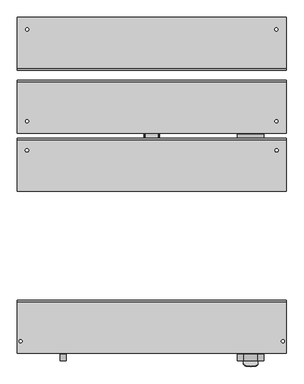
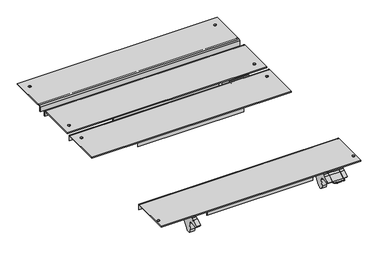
"""IFC4 building model written with IfcOpenShell, lengths in millimetres: proxy geometry, 12290890_D_APDR024 : 59520024_D_12290890_APDR024."""

from ifc_helpers import new_model, si_unit, point, frame, frame_2d, origin, place, context, project, spatial, polyline, circle_curve, trimmed, segment, composite_curve, outline, extrude, source, transform, mapped, element, save
from ifc_brep_helpers import plane_surface, cylinder_surface, revolved_surface, advanced_brep


def specialty_equipment_084e41a8(model_context):
    return source(origin(), model_context, "Body", "SolidModel", [
        advanced_brep(
        [(-425.0, 0.0, 125.7198946), (-425.0, 0.0, 121.7198946), (-425.0, -147.5857849, 121.7198946), (-425.0, -149.6888984, 122.5910314), (-425.0, -151.2426453, 123.7198946), (-425.0, -162.5, 123.7198946), (-425.0, -165.0, 121.2198946), (-425.0, -165.0, 100.7198946), (-425.0, -167.0, 100.7198946), (-425.0, -167.0, 121.2198946), (-425.0, -162.5, 125.7198946), (425.0, 0.0, 125.7198946), (425.0, -162.5, 125.7198946), (425.0, -167.0, 121.2198946), (425.0, -167.0, 100.7198946), (425.0, -165.0, 100.7198946), (425.0, -165.0, 121.2198946), (425.0, -162.5, 123.7198946), (425.0, -151.2426453, 123.7198946), (425.0, -149.6888984, 122.5910314), (425.0, -147.5857849, 121.7198946), (425.0, 0.0, 121.7198946), (389.5, -38.0, 121.7198946), (399.5, -38.0, 121.7198946), (-399.5, -38.0, 121.7198946), (-389.5, -38.0, 121.7198946), (399.5, -38.0, 125.7198946), (389.5, -38.0, 125.7198946), (-389.5, -38.0, 125.7198946), (-399.5, -38.0, 125.7198946)],
        [
            (0, 1),
            (1, 2),
            (2, 3, circle_curve(frame((-425.0, -147.5857849, 124.6941493), z_axis=(-1.0, 0.0, 0.0), x_axis=(0.0, -1.0, 0.0)), 2.9742547)),
            (3, 4, circle_curve(frame((-425.0, -151.2426453, 122.0861884), z_axis=(1.0, 0.0, 0.0), x_axis=(0.0, -1.0, 0.0)), 1.6337062)),
            (4, 5),
            (5, 6, circle_curve(frame((-425.0, -162.5, 121.2198946), z_axis=(1.0, 0.0, 0.0), x_axis=(0.0, -1.0, 0.0)), 2.5)),
            (6, 7),
            (7, 8),
            (8, 9),
            (9, 10, circle_curve(frame((-425.0, -162.5, 121.2198946), z_axis=(-1.0, 0.0, 0.0), x_axis=(0.0, -1.0, 0.0)), 4.5)),
            (10, 0),
            (11, 12),
            (12, 13, circle_curve(frame((425.0, -162.5, 121.2198946), z_axis=(1.0, 0.0, 0.0), x_axis=(0.0, -1.0, 0.0)), 4.5)),
            (13, 14),
            (14, 15),
            (15, 16),
            (16, 17, circle_curve(frame((425.0, -162.5, 121.2198946), z_axis=(-1.0, 0.0, 0.0), x_axis=(0.0, -1.0, 0.0)), 2.5)),
            (17, 18),
            (18, 19, circle_curve(frame((425.0, -151.2426453, 122.0861884), z_axis=(-1.0, 0.0, 0.0), x_axis=(0.0, -1.0, 0.0)), 1.6337062)),
            (19, 20, circle_curve(frame((425.0, -147.5857849, 124.6941493), z_axis=(1.0, 0.0, 0.0), x_axis=(0.0, -1.0, 0.0)), 2.9742547)),
            (20, 21),
            (21, 11),
            (0, 11),
            (21, 1),
            (20, 2),
            (22, 23, circle_curve(frame((394.5, -38.0, 121.7198946), z_axis=(0.0, 0.0, 1.0), x_axis=(1.0, 0.0, 0.0)), 5.0)),
            (23, 22, circle_curve(frame((394.5, -38.0, 121.7198946), z_axis=(0.0, 0.0, 1.0), x_axis=(1.0, 0.0, 0.0)), 5.0)),
            (24, 25, circle_curve(frame((-394.5, -38.0, 121.7198946), z_axis=(0.0, 0.0, 1.0), x_axis=(1.0, 0.0, 0.0)), 5.0)),
            (25, 24, circle_curve(frame((-394.5, -38.0, 121.7198946), z_axis=(0.0, 0.0, 1.0), x_axis=(1.0, 0.0, 0.0)), 5.0)),
            (19, 3),
            (18, 4),
            (17, 5),
            (16, 6),
            (15, 7),
            (14, 8),
            (13, 9),
            (12, 10),
            (26, 27, circle_curve(frame((394.5, -38.0, 125.7198946), z_axis=(0.0, 0.0, -1.0), x_axis=(1.0, 0.0, 0.0)), 5.0)),
            (27, 26, circle_curve(frame((394.5, -38.0, 125.7198946), z_axis=(0.0, 0.0, -1.0), x_axis=(1.0, 0.0, 0.0)), 5.0)),
            (28, 29, circle_curve(frame((-394.5, -38.0, 125.7198946), z_axis=(0.0, 0.0, -1.0), x_axis=(1.0, 0.0, 0.0)), 5.0)),
            (29, 28, circle_curve(frame((-394.5, -38.0, 125.7198946), z_axis=(0.0, 0.0, -1.0), x_axis=(1.0, 0.0, 0.0)), 5.0)),
            (22, 27),
            (26, 23),
            (24, 29),
            (28, 25),
        ],
        [
            plane_surface(frame((-425.0, 0.0, 121.7198946), z_axis=(-1.0, 0.0, 0.0), x_axis=(0.0, 0.0, -1.0))),
            plane_surface(frame((425.0, 0.0, 121.7198946), z_axis=(1.0, 0.0, 0.0), x_axis=(0.0, 0.0, 1.0))),
            plane_surface(frame((-425.0, 0.0, 125.7198946), z_axis=(0.0, 1.0, 0.0), x_axis=(1.0, 0.0, 0.0))),
            plane_surface(frame((-425.0, 0.0, 121.7198946), z_axis=(0.0, 0.0, -1.0), x_axis=(1.0, 0.0, 0.0))),
            cylinder_surface(frame((425.0, -147.5857849, 124.6941493), z_axis=(-1.0, 0.0, 0.0), x_axis=(0.0, -1.0, 0.0)), 2.9742547),
            revolved_surface(polyline([(425.0, -152.8763515, 122.0861884), (-425.0, -152.8763515, 122.0861884)]), (425.0, -151.2426453, 122.0861884), (1.0, 0.0, 0.0)),
            plane_surface(frame((-425.0, -151.2426453, 123.7198946), z_axis=(0.0, 0.0, -1.0), x_axis=(1.0, 0.0, 0.0))),
            revolved_surface(polyline([(425.0, -165.0, 121.2198946), (-425.0, -165.0, 121.2198946)]), (425.0, -162.5, 121.2198946), (1.0, 0.0, 0.0)),
            plane_surface(frame((-425.0, -165.0, 121.2198946), z_axis=(0.0, 1.0, 0.0), x_axis=(1.0, 0.0, 0.0))),
            plane_surface(frame((-425.0, -165.0, 100.7198946), z_axis=(0.0, 0.0, -1.0), x_axis=(1.0, 0.0, 0.0))),
            plane_surface(frame((-425.0, -167.0, 100.7198946), z_axis=(0.0, -1.0, 0.0), x_axis=(1.0, 0.0, 0.0))),
            cylinder_surface(frame((425.0, -162.5, 121.2198946), z_axis=(-1.0, 0.0, 0.0), x_axis=(0.0, -1.0, 0.0)), 4.5),
            plane_surface(frame((-425.0, -162.5, 125.7198946), z_axis=(0.0, 0.0, 1.0), x_axis=(1.0, 0.0, 0.0))),
            revolved_surface(polyline([(399.5, -38.0, 125.7198946), (399.5, -38.0, 121.7198946)]), (394.5, -38.0, 0.0), (0.0, 0.0, 1.0)),
            revolved_surface(polyline([(-389.5, -38.0, 125.7198946), (-389.5, -38.0, 121.7198946)]), (-394.5, -38.0, 0.0), (0.0, 0.0, 1.0)),
        ],
        [
            (0, [[1, 2, 3, 4, 5, 6, 7, 8, 9, 10, 11]]),
            (1, [[12, 13, 14, 15, 16, 17, 18, 19, 20, 21, 22]]),
            (2, [[-1, 23, -22, 24]]),
            (3, [[-2, -24, -21, 25], [26, 27], [28, 29]]),
            (4, [[-3, -25, -20, 30]]),
            (5, [[-4, -30, -19, 31]]),
            (6, [[-5, -31, -18, 32]]),
            (7, [[-6, -32, -17, 33]]),
            (8, [[-7, -33, -16, 34]]),
            (9, [[-8, -34, -15, 35]]),
            (10, [[-9, -35, -14, 36]]),
            (11, [[-10, -36, -13, 37]]),
            (12, [[-11, -37, -12, -23], [38, 39], [40, 41]]),
            (13, [[42, -38, 43, -26]]),
            (13, [[-42, -27, -43, -39]]),
            (14, [[44, -40, 45, -28]]),
            (14, [[-44, -29, -45, -41]]),
        ],
    ),
        extrude(outline(composite_curve([segment(polyline([(-1041.1809235, 51.6918031), (-1035.6630478, 77.0928632)]), True, "CONTINUOUS"), segment(trimmed(circle_curve(frame_2d((-1048.7630058, 77.0928632)), 13.099958), [point((-1035.6630478, 77.0928632))], [point((-1048.7630058, 90.1928212))], True, "CARTESIAN"), True, "CONTINUOUS"), segment(polyline([(-1048.7630058, 90.1928212), (-1080.2198384, 85.2105484), (-1084.1628271, 90.8417198), (-1061.7795681, 106.5146464), (-1051.4552155, 109.7698948), (-960.0, 109.7698948), (-960.0, 103.8698945)]), True, "CONTINUOUS"), segment(trimmed(circle_curve(frame_2d((-811.0639451, -81.8219916)), 238.0408054), [point((-960.0, 103.8698945))], [point((-1013.6273405, 43.2039892))], True, "CARTESIAN"), True, "CONTINUOUS"), segment(trimmed(circle_curve(frame_2d((-1026.816082, 49.3568547)), 14.5533726), [point((-1013.6273405, 43.2039892))], [point((-1041.1809235, 51.6918031))], False, "CARTESIAN"), True, "CONTINUOUS")], self_intersect=False)), frame((271.3709958, 0.0, 0.0), z_axis=(1.0, 0.0, 0.0), x_axis=(0.0, 1.0, 0.0)), (0.0, 0.0, 1.0), 18.5932971),
        extrude(outline(composite_curve([segment(polyline([(-1041.1809235, 51.6918031), (-1035.6630478, 77.0928632)]), True, "CONTINUOUS"), segment(trimmed(circle_curve(frame_2d((-1048.7630058, 77.0928632)), 13.099958), [point((-1035.6630478, 77.0928632))], [point((-1048.7630058, 90.1928212))], True, "CARTESIAN"), True, "CONTINUOUS"), segment(polyline([(-1048.7630058, 90.1928212), (-1080.2198384, 85.2105484), (-1084.1628271, 90.8417198), (-1061.7795681, 106.5146464), (-1051.4552155, 109.7698948), (-960.0, 109.7698948), (-960.0, 103.8698945)]), True, "CONTINUOUS"), segment(trimmed(circle_curve(frame_2d((-811.0639451, -81.8219916)), 238.0408054), [point((-960.0, 103.8698945))], [point((-1013.6273405, 43.2039892))], True, "CARTESIAN"), True, "CONTINUOUS"), segment(trimmed(circle_curve(frame_2d((-1026.816082, 49.3568547)), 14.5533726), [point((-1013.6273405, 43.2039892))], [point((-1041.1809235, 51.6918031))], False, "CARTESIAN"), True, "CONTINUOUS")], self_intersect=False)), frame((-289.9642929, 0.0, 0.0), z_axis=(1.0, 0.0, 0.0), x_axis=(0.0, 1.0, 0.0)), (0.0, 0.0, 1.0), 18.5932971),
        extrude(outline(composite_curve([segment(polyline([(-1041.0180964, 51.6918031), (-1035.5002207, 77.0928632)]), True, "CONTINUOUS"), segment(trimmed(circle_curve(frame_2d((-1048.6001787, 77.0928632)), 13.099958), [point((-1035.5002207, 77.0928632))], [point((-1048.6001787, 90.1928212))], True, "CARTESIAN"), True, "CONTINUOUS"), segment(polyline([(-1048.6001787, 90.1928212), (-1080.0570114, 85.2105484), (-1084.0, 90.8417198), (-1061.616741, 106.5146464), (-1051.2923884, 109.7698948), (-959.8371729, 109.7698948), (-959.8371729, 103.8698945)]), True, "CONTINUOUS"), segment(trimmed(circle_curve(frame_2d((-810.9011181, -81.8219916)), 238.0408054), [point((-959.8371729, 103.8698945))], [point((-1013.4645134, 43.2039892))], True, "CARTESIAN"), True, "CONTINUOUS"), segment(trimmed(circle_curve(frame_2d((-1026.6532549, 49.3568547)), 14.5533726), [point((-1013.4645134, 43.2039892))], [point((-1041.0180964, 51.6918031))], False, "CARTESIAN"), True, "CONTINUOUS")], self_intersect=False)), frame((336.0364395, 0.0, 0.0), z_axis=(1.0, 0.0, 0.0), x_axis=(0.0, 1.0, 0.0)), (0.0, 0.0, 1.0), 18.5932971),
        extrude(outline(composite_curve([segment(polyline([(4.0089052, 0.0), (4.0089052, -45.2500816), (-9.4794093, -45.2500816)]), True, "CONTINUOUS"), segment(trimmed(circle_curve(frame_2d((-9.4794093, -36.2704324)), 8.9796492), [point((-9.4794093, -45.2500816))], [point((-18.2479917, -38.2059068))], False, "CARTESIAN"), True, "CONTINUOUS"), segment(trimmed(circle_curve(frame_2d((73.1027151, -22.6250408)), 92.6699251), [point((-18.2479917, -38.2059068))], [point((-18.2479917, -7.0441748))], False, "CARTESIAN"), True, "CONTINUOUS"), segment(trimmed(circle_curve(frame_2d((-9.4794093, -8.9796492)), 8.9796492), [point((-18.2479917, -7.0441748))], [point((-9.4794093, 0.0))], False, "CARTESIAN"), True, "CONTINUOUS"), segment(polyline([(-9.4794093, 0.0), (4.0089052, 0.0)]), True, "CONTINUOUS")], self_intersect=False)), frame((290.3753254, -1084.1822522, 86.5337137), z_axis=(0.0, 0.32556815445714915, 0.9455185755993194), x_axis=(0.0, 0.9455185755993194, -0.32556815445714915)), (0.0, 0.0, 1.0), 2.9083805),
        extrude(outline(polyline([(-1051.2923884, 109.7698948), (-959.8371729, 109.7698948), (-959.8371729, 106.8022751), (-1051.2923884, 106.8022751), (-1060.0064384, 103.4461516), (-1082.0285057, 88.0261341), (-1084.0, 90.8417198), (-1061.616741, 106.5146464), (-1051.2923884, 109.7698948)])), frame((289.9642929, 0.0, 0.0), z_axis=(1.0, 0.0, 0.0), x_axis=(0.0, 1.0, 0.0)), (0.0, 0.0, 1.0), 46.0721465),
        extrude(outline(polyline([(225.1983078, -7.0), (225.1983078, -9.0), (-225.1983078, -9.0), (-225.1983078, -7.0), (225.1983078, -7.0)])), frame((0.0, 0.0, 100.7198946), z_axis=(0.0, 0.0, 1.0), x_axis=(1.0, 0.0, 0.0)), (0.0, 0.0, 1.0), 21.0),
        advanced_brep(
        [(425.0, -365.999939, 125.7198946), (425.0, -365.999939, 121.7198946), (425.0, -218.4141541, 121.7198946), (425.0, -216.3110406, 122.5910314), (425.0, -214.7572937, 123.7198946), (425.0, -203.499939, 123.7198946), (425.0, -200.999939, 121.2198946), (425.0, -200.999939, 100.7198946), (425.0, -198.999939, 100.7198946), (425.0, -198.999939, 121.2198946), (425.0, -203.499939, 125.7198946), (-425.0, -365.999939, 125.7198946), (-425.0, -203.499939, 125.7198946), (-425.0, -198.999939, 121.2198946), (-425.0, -198.999939, 100.7198946), (-425.0, -200.999939, 100.7198946), (-425.0, -200.999939, 121.2198946), (-425.0, -203.499939, 123.7198946), (-425.0, -214.7572937, 123.7198946), (-425.0, -216.3110406, 122.5910314), (-425.0, -218.4141541, 121.7198946), (-425.0, -365.999939, 121.7198946), (-29.7009872, -365.999939, 121.7198946), (27.7902836, -365.999939, 121.7198946), (389.5, -327.999939, 121.7198946), (399.5, -327.999939, 121.7198946), (-399.5, -327.999939, 121.7198946), (-389.5, -327.999939, 121.7198946), (399.5, -327.999939, 125.7198946), (389.5, -327.999939, 125.7198946), (-389.5, -327.999939, 125.7198946), (-399.5, -327.999939, 125.7198946)],
        [
            (0, 1),
            (1, 2),
            (2, 3, circle_curve(frame((425.0, -218.4141541, 124.6941493), z_axis=(1.0, 0.0, 0.0), x_axis=(0.0, 1.0, 0.0)), 2.9742547)),
            (3, 4, circle_curve(frame((425.0, -214.7572937, 122.0861884), z_axis=(-1.0, 0.0, 0.0), x_axis=(0.0, 1.0, 0.0)), 1.6337062)),
            (4, 5),
            (5, 6, circle_curve(frame((425.0, -203.499939, 121.2198946), z_axis=(-1.0, 0.0, 0.0), x_axis=(0.0, 1.0, 0.0)), 2.5)),
            (6, 7),
            (7, 8),
            (8, 9),
            (9, 10, circle_curve(frame((425.0, -203.499939, 121.2198946), z_axis=(1.0, 0.0, 0.0), x_axis=(0.0, 1.0, 0.0)), 4.5)),
            (10, 0),
            (11, 12),
            (12, 13, circle_curve(frame((-425.0, -203.499939, 121.2198946), z_axis=(-1.0, 0.0, 0.0), x_axis=(0.0, 1.0, 0.0)), 4.5)),
            (13, 14),
            (14, 15),
            (15, 16),
            (16, 17, circle_curve(frame((-425.0, -203.499939, 121.2198946), z_axis=(1.0, 0.0, 0.0), x_axis=(0.0, 1.0, 0.0)), 2.5)),
            (17, 18),
            (18, 19, circle_curve(frame((-425.0, -214.7572937, 122.0861884), z_axis=(1.0, 0.0, 0.0), x_axis=(0.0, 1.0, 0.0)), 1.6337062)),
            (19, 20, circle_curve(frame((-425.0, -218.4141541, 124.6941493), z_axis=(-1.0, 0.0, 0.0), x_axis=(0.0, 1.0, 0.0)), 2.9742547)),
            (20, 21),
            (21, 11),
            (0, 11),
            (21, 22),
            (22, 23),
            (23, 1),
            (20, 2),
            (24, 25, circle_curve(frame((394.5, -327.999939, 121.7198946), z_axis=(0.0, 0.0, 1.0), x_axis=(1.0, 0.0, 0.0)), 5.0)),
            (25, 24, circle_curve(frame((394.5, -327.999939, 121.7198946), z_axis=(0.0, 0.0, 1.0), x_axis=(1.0, 0.0, 0.0)), 5.0)),
            (26, 27, circle_curve(frame((-394.5, -327.999939, 121.7198946), z_axis=(0.0, 0.0, 1.0), x_axis=(1.0, 0.0, 0.0)), 5.0)),
            (27, 26, circle_curve(frame((-394.5, -327.999939, 121.7198946), z_axis=(0.0, 0.0, 1.0), x_axis=(1.0, 0.0, 0.0)), 5.0)),
            (19, 3),
            (18, 4),
            (17, 5),
            (16, 6),
            (15, 7),
            (14, 8),
            (13, 9),
            (12, 10),
            (28, 29, circle_curve(frame((394.5, -327.999939, 125.7198946), z_axis=(0.0, 0.0, -1.0), x_axis=(1.0, 0.0, 0.0)), 5.0)),
            (29, 28, circle_curve(frame((394.5, -327.999939, 125.7198946), z_axis=(0.0, 0.0, -1.0), x_axis=(1.0, 0.0, 0.0)), 5.0)),
            (30, 31, circle_curve(frame((-394.5, -327.999939, 125.7198946), z_axis=(0.0, 0.0, -1.0), x_axis=(1.0, 0.0, 0.0)), 5.0)),
            (31, 30, circle_curve(frame((-394.5, -327.999939, 125.7198946), z_axis=(0.0, 0.0, -1.0), x_axis=(1.0, 0.0, 0.0)), 5.0)),
            (24, 29),
            (28, 25),
            (26, 31),
            (30, 27),
        ],
        [
            plane_surface(frame((425.0, -365.999939, 121.7198946), z_axis=(1.0, 0.0, 0.0), x_axis=(0.0, 0.0, -1.0))),
            plane_surface(frame((-425.0, -365.999939, 121.7198946), z_axis=(-1.0, 0.0, 0.0), x_axis=(0.0, 0.0, 1.0))),
            plane_surface(frame((425.0, -365.999939, 125.7198946), z_axis=(0.0, -1.0, 0.0), x_axis=(-1.0, 0.0, 0.0))),
            plane_surface(frame((425.0, -365.999939, 121.7198946), z_axis=(0.0, 0.0, -1.0), x_axis=(-1.0, 0.0, 0.0))),
            cylinder_surface(frame((-425.0, -218.4141541, 124.6941493), z_axis=(1.0, 0.0, 0.0), x_axis=(0.0, 1.0, 0.0)), 2.9742547),
            revolved_surface(polyline([(-425.0, -213.12358749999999, 122.0861884), (425.0, -213.12358749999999, 122.0861884)]), (-425.0, -214.7572937, 122.0861884), (-1.0, 0.0, 0.0)),
            plane_surface(frame((425.0, -214.7572937, 123.7198946), z_axis=(0.0, 0.0, -1.0), x_axis=(-1.0, 0.0, 0.0))),
            revolved_surface(polyline([(-425.0, -200.999939, 121.2198946), (425.0, -200.999939, 121.2198946)]), (-425.0, -203.499939, 121.2198946), (-1.0, 0.0, 0.0)),
            plane_surface(frame((425.0, -200.999939, 121.2198946), z_axis=(0.0, -1.0, 0.0), x_axis=(-1.0, 0.0, 0.0))),
            plane_surface(frame((425.0, -200.999939, 100.7198946), z_axis=(0.0, 0.0, -1.0), x_axis=(-1.0, 0.0, 0.0))),
            plane_surface(frame((425.0, -198.999939, 100.7198946), z_axis=(0.0, 1.0, 0.0), x_axis=(-1.0, 0.0, 0.0))),
            cylinder_surface(frame((-425.0, -203.499939, 121.2198946), z_axis=(1.0, 0.0, 0.0), x_axis=(0.0, 1.0, 0.0)), 4.5),
            plane_surface(frame((425.0, -203.499939, 125.7198946), z_axis=(0.0, 0.0, 1.0), x_axis=(-1.0, 0.0, 0.0))),
            revolved_surface(polyline([(399.5, -327.999939, 125.7198946), (399.5, -327.999939, 121.7198946)]), (394.5, -327.999939, 0.0), (0.0, 0.0, 1.0)),
            revolved_surface(polyline([(-389.5, -327.999939, 125.7198946), (-389.5, -327.999939, 121.7198946)]), (-394.5, -327.999939, 0.0), (0.0, 0.0, 1.0)),
        ],
        [
            (0, [[1, 2, 3, 4, 5, 6, 7, 8, 9, 10, 11]]),
            (1, [[12, 13, 14, 15, 16, 17, 18, 19, 20, 21, 22]]),
            (2, [[-1, 23, -22, 24, 25, 26]]),
            (3, [[-2, -26, -25, -24, -21, 27], [28, 29], [30, 31]]),
            (4, [[-3, -27, -20, 32]]),
            (5, [[-4, -32, -19, 33]]),
            (6, [[-5, -33, -18, 34]]),
            (7, [[-6, -34, -17, 35]]),
            (8, [[-7, -35, -16, 36]]),
            (9, [[-8, -36, -15, 37]]),
            (10, [[-9, -37, -14, 38]]),
            (11, [[-10, -38, -13, 39]]),
            (12, [[-11, -39, -12, -23], [40, 41], [42, 43]]),
            (13, [[44, -40, 45, -28]]),
            (13, [[-44, -29, -45, -41]]),
            (14, [[46, -42, 47, -30]]),
            (14, [[-46, -31, -47, -43]]),
        ],
    ),
        advanced_brep(
        [(425.0, -1060.7120361, 125.7198946), (425.0, -1060.7120361, 121.7198946), (425.0, -913.1262512, 121.7198946), (425.0, -911.0231378, 122.5910314), (425.0, -909.4693909, 123.7198946), (425.0, -898.2120361, 123.7198946), (425.0, -895.7120361, 121.2198946), (425.0, -895.7120361, 100.7198946), (425.0, -893.7120361, 100.7198946), (425.0, -893.7120361, 121.2198946), (425.0, -898.2120361, 125.7198946), (-425.0, -1060.7120361, 125.7198946), (-425.0, -898.2120361, 125.7198946), (-425.0, -893.7120361, 121.2198946), (-425.0, -893.7120361, 100.7198946), (-425.0, -895.7120361, 100.7198946), (-425.0, -895.7120361, 121.2198946), (-425.0, -898.2120361, 123.7198946), (-425.0, -909.4693909, 123.7198946), (-425.0, -911.0231378, 122.5910314), (-425.0, -913.1262512, 121.7198946), (-425.0, -1060.7120361, 121.7198946), (225.1983078, -1053.7120361, 121.7198946), (225.1983078, -1051.7120361, 121.7198946), (-225.1983078, -1051.7120361, 121.7198946), (-225.1983078, -1053.7120361, 121.7198946), (-420.0226615, -1022.7120361, 121.7198946), (-410.006072, -1022.7120361, 121.7198946), (410.006072, -1022.7120361, 121.7198946), (420.0226615, -1022.7120361, 121.7198946), (-410.006072, -1022.7120361, 125.7198946), (-420.0226615, -1022.7120361, 125.7198946), (420.0226615, -1022.7120361, 125.7198946), (410.006072, -1022.7120361, 125.7198946), (225.1983078, -1053.7120361, 100.7198946), (225.1983078, -1051.7120361, 100.7198946), (-225.1983078, -1051.7120361, 100.7198946), (-225.1983078, -1053.7120361, 100.7198946)],
        [
            (0, 1),
            (1, 2),
            (2, 3, circle_curve(frame((425.0, -913.1262512, 124.6941493), z_axis=(1.0, 0.0, 0.0), x_axis=(0.0, 1.0, 0.0)), 2.9742547)),
            (3, 4, circle_curve(frame((425.0, -909.4693909, 122.0861884), z_axis=(-1.0, 0.0, 0.0), x_axis=(0.0, 1.0, 0.0)), 1.6337062)),
            (4, 5),
            (5, 6, circle_curve(frame((425.0, -898.2120361, 121.2198946), z_axis=(-1.0, 0.0, 0.0), x_axis=(0.0, 1.0, 0.0)), 2.5)),
            (6, 7),
            (7, 8),
            (8, 9),
            (9, 10, circle_curve(frame((425.0, -898.2120361, 121.2198946), z_axis=(1.0, 0.0, 0.0), x_axis=(0.0, 1.0, 0.0)), 4.5)),
            (10, 0),
            (11, 12),
            (12, 13, circle_curve(frame((-425.0, -898.2120361, 121.2198946), z_axis=(-1.0, 0.0, 0.0), x_axis=(0.0, 1.0, 0.0)), 4.5)),
            (13, 14),
            (14, 15),
            (15, 16),
            (16, 17, circle_curve(frame((-425.0, -898.2120361, 121.2198946), z_axis=(1.0, 0.0, 0.0), x_axis=(0.0, 1.0, 0.0)), 2.5)),
            (17, 18),
            (18, 19, circle_curve(frame((-425.0, -909.4693909, 122.0861884), z_axis=(1.0, 0.0, 0.0), x_axis=(0.0, 1.0, 0.0)), 1.6337062)),
            (19, 20, circle_curve(frame((-425.0, -913.1262512, 124.6941493), z_axis=(-1.0, 0.0, 0.0), x_axis=(0.0, 1.0, 0.0)), 2.9742547)),
            (20, 21),
            (21, 11),
            (0, 11),
            (21, 1),
            (20, 2),
            (22, 23),
            (23, 24),
            (24, 25),
            (25, 22),
            (26, 27, circle_curve(frame((-415.0143668, -1022.7120361, 121.7198946), z_axis=(0.0, 0.0, 1.0), x_axis=(1.0, 0.0, 0.0)), 5.0082948)),
            (27, 26, circle_curve(frame((-415.0143668, -1022.7120361, 121.7198946), z_axis=(0.0, 0.0, 1.0), x_axis=(1.0, 0.0, 0.0)), 5.0082948)),
            (28, 29, circle_curve(frame((415.0143668, -1022.7120361, 121.7198946), z_axis=(0.0, 0.0, 1.0), x_axis=(1.0, 0.0, 0.0)), 5.0082948)),
            (29, 28, circle_curve(frame((415.0143668, -1022.7120361, 121.7198946), z_axis=(0.0, 0.0, 1.0), x_axis=(1.0, 0.0, 0.0)), 5.0082948)),
            (19, 3),
            (18, 4),
            (17, 5),
            (16, 6),
            (15, 7),
            (14, 8),
            (13, 9),
            (12, 10),
            (30, 31, circle_curve(frame((-415.0143668, -1022.7120361, 125.7198946), z_axis=(0.0, 0.0, -1.0), x_axis=(1.0, 0.0, 0.0)), 5.0082948)),
            (31, 30, circle_curve(frame((-415.0143668, -1022.7120361, 125.7198946), z_axis=(0.0, 0.0, -1.0), x_axis=(1.0, 0.0, 0.0)), 5.0082948)),
            (32, 33, circle_curve(frame((415.0143668, -1022.7120361, 125.7198946), z_axis=(0.0, 0.0, -1.0), x_axis=(1.0, 0.0, 0.0)), 5.0082948)),
            (33, 32, circle_curve(frame((415.0143668, -1022.7120361, 125.7198946), z_axis=(0.0, 0.0, -1.0), x_axis=(1.0, 0.0, 0.0)), 5.0082948)),
            (22, 34),
            (34, 35),
            (35, 23),
            (24, 36),
            (36, 37),
            (37, 25),
            (37, 34),
            (36, 35),
            (26, 31),
            (30, 27),
            (28, 33),
            (32, 29),
        ],
        [
            plane_surface(frame((425.0, -1060.7120361, 121.7198946), z_axis=(1.0, 0.0, 0.0), x_axis=(0.0, 0.0, -1.0))),
            plane_surface(frame((-425.0, -1060.7120361, 121.7198946), z_axis=(-1.0, 0.0, 0.0), x_axis=(0.0, 0.0, 1.0))),
            plane_surface(frame((425.0, -1060.7120361, 125.7198946), z_axis=(0.0, -1.0, 0.0), x_axis=(-1.0, 0.0, 0.0))),
            plane_surface(frame((425.0, -1060.7120361, 121.7198946), z_axis=(0.0, 0.0, -1.0), x_axis=(-1.0, 0.0, 0.0))),
            cylinder_surface(frame((-425.0, -913.1262512, 124.6941493), z_axis=(1.0, 0.0, 0.0), x_axis=(0.0, 1.0, 0.0)), 2.9742547),
            revolved_surface(polyline([(-425.0, -907.8356847, 122.0861884), (425.0, -907.8356847, 122.0861884)]), (-425.0, -909.4693909, 122.0861884), (-1.0, 0.0, 0.0)),
            plane_surface(frame((425.0, -909.4693909, 123.7198946), z_axis=(0.0, 0.0, -1.0), x_axis=(-1.0, 0.0, 0.0))),
            revolved_surface(polyline([(-425.0, -895.7120361, 121.2198946), (425.0, -895.7120361, 121.2198946)]), (-425.0, -898.2120361, 121.2198946), (-1.0, 0.0, 0.0)),
            plane_surface(frame((425.0, -895.7120361, 121.2198946), z_axis=(0.0, -1.0, 0.0), x_axis=(-1.0, 0.0, 0.0))),
            plane_surface(frame((425.0, -895.7120361, 100.7198946), z_axis=(0.0, 0.0, -1.0), x_axis=(-1.0, 0.0, 0.0))),
            plane_surface(frame((425.0, -893.7120361, 100.7198946), z_axis=(0.0, 1.0, 0.0), x_axis=(-1.0, 0.0, 0.0))),
            cylinder_surface(frame((-425.0, -898.2120361, 121.2198946), z_axis=(1.0, 0.0, 0.0), x_axis=(0.0, 1.0, 0.0)), 4.5),
            plane_surface(frame((425.0, -898.2120361, 125.7198946), z_axis=(0.0, 0.0, 1.0), x_axis=(-1.0, 0.0, 0.0))),
            plane_surface(frame((225.1983078, -1053.7120361, 121.7198946), z_axis=(1.0, 0.0, 0.0), x_axis=(0.0, -1.0, 0.0))),
            plane_surface(frame((-225.1983078, -1053.7120361, 121.7198946), z_axis=(-1.0, 0.0, 0.0), x_axis=(0.0, 1.0, 0.0))),
            plane_surface(frame((225.1983078, -1053.7120361, 121.7198946), z_axis=(0.0, -1.0, 0.0), x_axis=(-1.0, 0.0, 0.0))),
            plane_surface(frame((225.1983078, -1053.7120361, 100.7198946), z_axis=(0.0, 0.0, -1.0), x_axis=(-1.0, 0.0, 0.0))),
            plane_surface(frame((225.1983078, -1051.7120361, 100.7198946), z_axis=(0.0, 1.0, 0.0), x_axis=(-1.0, 0.0, 0.0))),
            revolved_surface(polyline([(-410.006072, -1022.7120361, 125.7198946), (-410.006072, -1022.7120361, 121.7198946)]), (-415.0143668, -1022.7120361, 0.0), (0.0, 0.0, 1.0)),
            revolved_surface(polyline([(420.0226616, -1022.7120361, 125.7198946), (420.0226616, -1022.7120361, 121.7198946)]), (415.0143668, -1022.7120361, 0.0), (0.0, 0.0, 1.0)),
        ],
        [
            (0, [[1, 2, 3, 4, 5, 6, 7, 8, 9, 10, 11]]),
            (1, [[12, 13, 14, 15, 16, 17, 18, 19, 20, 21, 22]]),
            (2, [[-1, 23, -22, 24]]),
            (3, [[-2, -24, -21, 25], [26, 27, 28, 29], [30, 31], [32, 33]]),
            (4, [[-3, -25, -20, 34]]),
            (5, [[-4, -34, -19, 35]]),
            (6, [[-5, -35, -18, 36]]),
            (7, [[-6, -36, -17, 37]]),
            (8, [[-7, -37, -16, 38]]),
            (9, [[-8, -38, -15, 39]]),
            (10, [[-9, -39, -14, 40]]),
            (11, [[-10, -40, -13, 41]]),
            (12, [[-11, -41, -12, -23], [42, 43], [44, 45]]),
            (13, [[46, 47, 48, -26]]),
            (14, [[49, 50, 51, -28]]),
            (15, [[-46, -29, -51, 52]]),
            (16, [[-47, -52, -50, 53]]),
            (17, [[-48, -53, -49, -27]]),
            (18, [[54, -42, 55, -30]]),
            (18, [[-54, -31, -55, -43]]),
            (19, [[56, -44, 57, -32]]),
            (19, [[-56, -33, -57, -45]]),
        ],
    ),
        extrude(outline(polyline([(225.1983078, -539.7120361), (225.1983078, -541.7120361), (-225.1983078, -541.7120361), (-225.1983078, -539.7120361), (225.1983078, -539.7120361)])), frame((0.0, 0.0, 100.7198946), z_axis=(0.0, 0.0, 1.0), x_axis=(1.0, 0.0, 0.0)), (0.0, 0.0, 1.0), 21.0),
        advanced_brep(
        [(425.0, -548.7120361, 125.7198946), (425.0, -548.7120361, 121.7198946), (425.0, -401.1262512, 121.7198946), (425.0, -399.0231378, 122.5910314), (425.0, -397.4693909, 123.7198946), (425.0, -386.2120361, 123.7198946), (425.0, -383.7120361, 121.2198946), (425.0, -383.7120361, 100.7198946), (425.0, -381.7120361, 100.7198946), (425.0, -381.7120361, 121.2198946), (425.0, -386.2120361, 125.7198946), (-425.0, -548.7120361, 125.7198946), (-425.0, -386.2120361, 125.7198946), (-425.0, -381.7120361, 121.2198946), (-425.0, -381.7120361, 100.7198946), (-425.0, -383.7120361, 100.7198946), (-425.0, -383.7120361, 121.2198946), (-425.0, -386.2120361, 123.7198946), (-425.0, -397.4693909, 123.7198946), (-425.0, -399.0231378, 122.5910314), (-425.0, -401.1262512, 121.7198946), (-425.0, -548.7120361, 121.7198946), (390.0001925, -419.7120361, 121.7198946), (400.0000516, -419.7120361, 121.7198946), (-400.0000516, -419.7120361, 121.7198946), (-390.0001925, -419.7120361, 121.7198946), (-25.0, -466.999939, 121.7198946), (-23.0, -466.999939, 121.7198946), (-23.0, -404.8415937, 121.7198946), (-25.0, -404.8415937, 121.7198946), (23.0, -466.999939, 121.7198946), (25.0, -466.999939, 121.7198946), (25.0, -404.8415937, 121.7198946), (23.0, -404.8415937, 121.7198946), (400.0000516, -419.7120361, 125.7198946), (390.0001925, -419.7120361, 125.7198946), (-390.0001925, -419.7120361, 125.7198946), (-400.0000516, -419.7120361, 125.7198946), (23.0, -466.999939, 91.2198946), (20.5, -466.999939, 88.7198946), (-20.5, -466.999939, 88.7198946), (-23.0, -466.999939, 91.2198946), (-25.0, -466.999939, 91.2198946), (-20.5, -466.999939, 86.7198946), (20.5, -466.999939, 86.7198946), (25.0, -466.999939, 91.2198946), (23.0, -266.999939, 121.7198946), (25.0, -266.999939, 121.7198946), (25.0, -266.999939, 91.2198946), (20.5, -266.999939, 86.7198946), (-20.5, -266.999939, 86.7198946), (-25.0, -266.999939, 91.2198946), (-25.0, -266.999939, 121.7198946), (-23.0, -266.999939, 121.7198946), (-23.0, -266.999939, 91.2198946), (-20.5, -266.999939, 88.7198946), (20.5, -266.999939, 88.7198946), (23.0, -266.999939, 91.2198946), (23.0, -404.8415937, 98.2198946), (23.0, -356.999939, 98.2198946), (23.0, -356.999939, 100.7198946), (23.0, -356.999939, 121.7198946), (-23.0, -356.999939, 121.7198946), (-23.0, -356.999939, 100.7198946), (-23.0, -356.999939, 98.2198946), (-23.0, -404.8415937, 98.2198946), (-25.0, -356.999939, 121.7198946), (-225.1983078, -356.999939, 121.7198946), (-225.1983078, -358.999939, 121.7198946), (225.1983078, -358.999939, 121.7198946), (225.1983078, -356.999939, 121.7198946), (25.0, -356.999939, 121.7198946), (-25.0, -404.8415937, 98.2198946), (-25.0, -356.999939, 98.2198946), (-25.0, -356.999939, 100.7198946), (25.0, -356.999939, 100.7198946), (25.0, -356.999939, 98.2198946), (25.0, -404.8415937, 98.2198946), (225.1983078, -358.999939, 100.7198946), (225.1983078, -356.999939, 100.7198946), (-225.1983078, -356.999939, 100.7198946), (-225.1983078, -358.999939, 100.7198946)],
        [
            (0, 1),
            (1, 2),
            (2, 3, circle_curve(frame((425.0, -401.1262512, 124.6941493), z_axis=(1.0, 0.0, 0.0), x_axis=(0.0, 1.0, 0.0)), 2.9742547)),
            (3, 4, circle_curve(frame((425.0, -397.4693909, 122.0861884), z_axis=(-1.0, 0.0, 0.0), x_axis=(0.0, 1.0, 0.0)), 1.6337062)),
            (4, 5),
            (5, 6, circle_curve(frame((425.0, -386.2120361, 121.2198946), z_axis=(-1.0, 0.0, 0.0), x_axis=(0.0, 1.0, 0.0)), 2.5)),
            (6, 7),
            (7, 8),
            (8, 9),
            (9, 10, circle_curve(frame((425.0, -386.2120361, 121.2198946), z_axis=(1.0, 0.0, 0.0), x_axis=(0.0, 1.0, 0.0)), 4.5)),
            (10, 0),
            (11, 12),
            (12, 13, circle_curve(frame((-425.0, -386.2120361, 121.2198946), z_axis=(-1.0, 0.0, 0.0), x_axis=(0.0, 1.0, 0.0)), 4.5)),
            (13, 14),
            (14, 15),
            (15, 16),
            (16, 17, circle_curve(frame((-425.0, -386.2120361, 121.2198946), z_axis=(1.0, 0.0, 0.0), x_axis=(0.0, 1.0, 0.0)), 2.5)),
            (17, 18),
            (18, 19, circle_curve(frame((-425.0, -397.4693909, 122.0861884), z_axis=(1.0, 0.0, 0.0), x_axis=(0.0, 1.0, 0.0)), 1.6337062)),
            (19, 20, circle_curve(frame((-425.0, -401.1262512, 124.6941493), z_axis=(-1.0, 0.0, 0.0), x_axis=(0.0, 1.0, 0.0)), 2.9742547)),
            (20, 21),
            (21, 11),
            (0, 11),
            (21, 1),
            (20, 2),
            (22, 23, circle_curve(frame((395.0001221, -419.7120361, 121.7198946), z_axis=(0.0, 0.0, 1.0), x_axis=(1.0, 0.0, 0.0)), 4.9999295)),
            (23, 22, circle_curve(frame((395.0001221, -419.7120361, 121.7198946), z_axis=(0.0, 0.0, 1.0), x_axis=(1.0, 0.0, 0.0)), 4.9999295)),
            (24, 25, circle_curve(frame((-395.0001221, -419.7120361, 121.7198946), z_axis=(0.0, 0.0, 1.0), x_axis=(1.0, 0.0, 0.0)), 4.9999295)),
            (25, 24, circle_curve(frame((-395.0001221, -419.7120361, 121.7198946), z_axis=(0.0, 0.0, 1.0), x_axis=(1.0, 0.0, 0.0)), 4.9999295)),
            (26, 27),
            (27, 28),
            (28, 29),
            (29, 26),
            (30, 31),
            (31, 32),
            (32, 33),
            (33, 30),
            (19, 3),
            (18, 4),
            (17, 5),
            (16, 6),
            (15, 7),
            (14, 8),
            (13, 9),
            (12, 10),
            (34, 35, circle_curve(frame((395.0001221, -419.7120361, 125.7198946), z_axis=(0.0, 0.0, -1.0), x_axis=(1.0, 0.0, 0.0)), 4.9999295)),
            (35, 34, circle_curve(frame((395.0001221, -419.7120361, 125.7198946), z_axis=(0.0, 0.0, -1.0), x_axis=(1.0, 0.0, 0.0)), 4.9999295)),
            (36, 37, circle_curve(frame((-395.0001221, -419.7120361, 125.7198946), z_axis=(0.0, 0.0, -1.0), x_axis=(1.0, 0.0, 0.0)), 4.9999295)),
            (37, 36, circle_curve(frame((-395.0001221, -419.7120361, 125.7198946), z_axis=(0.0, 0.0, -1.0), x_axis=(1.0, 0.0, 0.0)), 4.9999295)),
            (30, 38),
            (38, 39),
            (39, 40),
            (40, 41),
            (41, 27),
            (26, 42),
            (42, 43),
            (43, 44),
            (44, 45),
            (45, 31),
            (46, 47),
            (47, 48),
            (48, 49),
            (49, 50),
            (50, 51),
            (51, 52),
            (52, 53),
            (53, 54),
            (54, 55),
            (55, 56),
            (56, 57),
            (57, 46),
            (33, 58),
            (58, 59),
            (59, 60),
            (60, 61),
            (61, 46),
            (57, 38),
            (56, 39),
            (55, 40),
            (54, 41),
            (53, 62),
            (62, 63),
            (63, 64),
            (64, 65),
            (65, 28),
            (61, 62),
            (52, 66),
            (66, 67),
            (67, 68),
            (68, 69),
            (69, 70),
            (70, 71),
            (71, 47),
            (29, 72),
            (72, 73),
            (73, 74),
            (74, 66),
            (51, 42),
            (50, 43),
            (49, 44),
            (48, 45),
            (71, 75),
            (75, 76),
            (76, 77),
            (77, 32),
            (69, 78),
            (78, 79),
            (79, 70),
            (67, 80),
            (80, 81),
            (81, 68),
            (81, 78),
            (80, 74),
            (74, 63),
            (63, 60),
            (60, 75),
            (75, 79),
            (58, 77),
            (76, 59),
            (72, 65),
            (64, 73),
            (22, 35),
            (34, 23),
            (24, 37),
            (36, 25),
        ],
        [
            plane_surface(frame((425.0, -548.7120361, 121.7198946), z_axis=(1.0, 0.0, 0.0), x_axis=(0.0, 0.0, -1.0))),
            plane_surface(frame((-425.0, -548.7120361, 121.7198946), z_axis=(-1.0, 0.0, 0.0), x_axis=(0.0, 0.0, 1.0))),
            plane_surface(frame((425.0, -548.7120361, 125.7198946), z_axis=(0.0, -1.0, 0.0), x_axis=(-1.0, 0.0, 0.0))),
            plane_surface(frame((425.0, -548.7120361, 121.7198946), z_axis=(0.0, 0.0, -1.0), x_axis=(-1.0, 0.0, 0.0))),
            cylinder_surface(frame((-425.0, -401.1262512, 124.6941493), z_axis=(1.0, 0.0, 0.0), x_axis=(0.0, 1.0, 0.0)), 2.9742547),
            revolved_surface(polyline([(-425.0, -395.8356847, 122.0861884), (425.0, -395.8356847, 122.0861884)]), (-425.0, -397.4693909, 122.0861884), (-1.0, 0.0, 0.0)),
            plane_surface(frame((425.0, -397.4693909, 123.7198946), z_axis=(0.0, 0.0, -1.0), x_axis=(-1.0, 0.0, 0.0))),
            revolved_surface(polyline([(-425.0, -383.7120361, 121.2198946), (425.0, -383.7120361, 121.2198946)]), (-425.0, -386.2120361, 121.2198946), (-1.0, 0.0, 0.0)),
            plane_surface(frame((425.0, -383.7120361, 121.2198946), z_axis=(0.0, -1.0, 0.0), x_axis=(-1.0, 0.0, 0.0))),
            plane_surface(frame((425.0, -383.7120361, 100.7198946), z_axis=(0.0, 0.0, -1.0), x_axis=(-1.0, 0.0, 0.0))),
            plane_surface(frame((425.0, -381.7120361, 100.7198946), z_axis=(0.0, 1.0, 0.0), x_axis=(-1.0, 0.0, 0.0))),
            cylinder_surface(frame((-425.0, -386.2120361, 121.2198946), z_axis=(1.0, 0.0, 0.0), x_axis=(0.0, 1.0, 0.0)), 4.5),
            plane_surface(frame((425.0, -386.2120361, 125.7198946), z_axis=(0.0, 0.0, 1.0), x_axis=(-1.0, 0.0, 0.0))),
            plane_surface(frame((23.0, -466.999939, 116.5186445), z_axis=(0.0, -1.0, 0.0), x_axis=(0.0, 0.0, -1.0))),
            plane_surface(frame((23.0, -266.999939, 116.5186445), z_axis=(0.0, 1.0, 0.0), x_axis=(0.0, 0.0, 1.0))),
            plane_surface(frame((23.0, -466.999939, 121.7198946), z_axis=(-1.0, 0.0, 0.0), x_axis=(0.0, 1.0, 0.0))),
            plane_surface(frame((23.0, -466.999939, 91.2198946), z_axis=(-0.7071067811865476, 0.0, 0.7071067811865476), x_axis=(0.0, 1.0, 0.0))),
            plane_surface(frame((20.5, -466.999939, 88.7198946), z_axis=(0.0, 0.0, 1.0), x_axis=(0.0, 1.0, 0.0))),
            plane_surface(frame((-20.5, -466.999939, 88.7198946), z_axis=(0.707106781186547, 0.0, 0.7071067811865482), x_axis=(0.0, 1.0, 0.0))),
            plane_surface(frame((-23.0, -466.999939, 91.2198946), z_axis=(1.0, 0.0, 0.0), x_axis=(0.0, 1.0, 0.0))),
            plane_surface(frame((-23.0, -466.999939, 121.7198946), z_axis=(0.0, 0.0, 1.0), x_axis=(0.0, 1.0, 0.0))),
            plane_surface(frame((-25.0, -466.999939, 121.7198946), z_axis=(-1.0, 0.0, 0.0), x_axis=(0.0, 1.0, 0.0))),
            plane_surface(frame((-25.0, -466.999939, 91.2198946), z_axis=(-0.7071067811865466, 0.0, -0.7071067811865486), x_axis=(0.0, 1.0, 0.0))),
            plane_surface(frame((-20.5, -466.999939, 86.7198946), z_axis=(0.0, 0.0, -1.0), x_axis=(0.0, 1.0, 0.0))),
            plane_surface(frame((20.5, -466.999939, 86.7198946), z_axis=(0.7071067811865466, 0.0, -0.7071067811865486), x_axis=(0.0, 1.0, 0.0))),
            plane_surface(frame((25.0, -466.999939, 91.2198946), z_axis=(1.0, 0.0, 0.0), x_axis=(0.0, 1.0, 0.0))),
            plane_surface(frame((225.1983078, -358.9778154, 121.7198946), z_axis=(1.0, 0.0, 0.0), x_axis=(0.0, -1.0, 0.0))),
            plane_surface(frame((-225.1983078, -358.9778154, 121.7198946), z_axis=(-1.0, 0.0, 0.0), x_axis=(0.0, 1.0, 0.0))),
            plane_surface(frame((225.1983078, -358.999939, 121.7198946), z_axis=(0.0, -1.0, 0.0), x_axis=(-1.0, 0.0, 0.0))),
            plane_surface(frame((225.1983078, -358.999939, 100.7198946), z_axis=(0.0, 0.0, -1.0), x_axis=(-1.0, 0.0, 0.0))),
            plane_surface(frame((225.1983078, -356.999939, 100.7198946), z_axis=(0.0, 1.0, 0.0), x_axis=(-1.0, 0.0, 0.0))),
            plane_surface(frame((27.7902836, -404.8415937, 98.2198946), z_axis=(0.0, 0.0, 1.0), x_axis=(-1.0, 0.0, 0.0))),
            plane_surface(frame((27.7902836, -356.999939, 98.2198946), z_axis=(0.0, -1.0, 0.0), x_axis=(-1.0, 0.0, 0.0))),
            plane_surface(frame((27.7902836, -404.8415937, 121.7198946), z_axis=(0.0, 1.0, 0.0), x_axis=(-1.0, 0.0, 0.0))),
            revolved_surface(polyline([(400.0000516, -419.7120361, 125.7198946), (400.0000516, -419.7120361, 121.7198946)]), (395.0001221, -419.7120361, 77.0928632), (0.0, 0.0, 1.0)),
            revolved_surface(polyline([(-390.0001926, -419.7120361, 125.7198946), (-390.0001926, -419.7120361, 121.7198946)]), (-395.0001221, -419.7120361, 0.0), (0.0, 0.0, 1.0)),
        ],
        [
            (0, [[1, 2, 3, 4, 5, 6, 7, 8, 9, 10, 11]]),
            (1, [[12, 13, 14, 15, 16, 17, 18, 19, 20, 21, 22]]),
            (2, [[-1, 23, -22, 24]]),
            (3, [[-2, -24, -21, 25], [26, 27], [28, 29], [30, 31, 32, 33], [34, 35, 36, 37]]),
            (4, [[-3, -25, -20, 38]]),
            (5, [[-4, -38, -19, 39]]),
            (6, [[-5, -39, -18, 40]]),
            (7, [[-6, -40, -17, 41]]),
            (8, [[-7, -41, -16, 42]]),
            (9, [[-8, -42, -15, 43]]),
            (10, [[-9, -43, -14, 44]]),
            (11, [[-10, -44, -13, 45]]),
            (12, [[-11, -45, -12, -23], [46, 47], [48, 49]]),
            (13, [[50, 51, 52, 53, 54, -30, 55, 56, 57, 58, 59, -34]]),
            (14, [[60, 61, 62, 63, 64, 65, 66, 67, 68, 69, 70, 71]]),
            (15, [[-50, -37, 72, 73, 74, 75, 76, -71, 77]]),
            (16, [[-51, -77, -70, 78]]),
            (17, [[-52, -78, -69, 79]]),
            (18, [[-53, -79, -68, 80]]),
            (19, [[-54, -80, -67, 81, 82, 83, 84, 85, -31]]),
            (20, [[-60, -76, 86, -81, -66, 87, 88, 89, 90, 91, 92, 93]]),
            (21, [[-55, -33, 94, 95, 96, 97, -87, -65, 98]]),
            (22, [[-56, -98, -64, 99]]),
            (23, [[-57, -99, -63, 100]]),
            (24, [[-58, -100, -62, 101]]),
            (25, [[-59, -101, -61, -93, 102, 103, 104, 105, -35]]),
            (26, [[-91, 106, 107, 108]]),
            (27, [[109, 110, 111, -89]]),
            (28, [[-106, -90, -111, 112]]),
            (29, [[-107, -112, -110, 113, 114, 115, 116, 117]]),
            (30, [[-86, -75, -115, -82]]),
            (30, [[-108, -117, -102, -92]]),
            (30, [[-109, -88, -97, -113]]),
            (31, [[118, -104, 119, -73]]),
            (31, [[120, -84, 121, -95]]),
            (32, [[-119, -103, -116, -74]]),
            (32, [[-121, -83, -114, -96]]),
            (33, [[-118, -72, -36, -105]]),
            (33, [[-120, -94, -32, -85]]),
            (34, [[122, -46, 123, -26]]),
            (34, [[-122, -27, -123, -47]]),
            (35, [[124, -48, 125, -28]]),
            (35, [[-124, -29, -125, -49]]),
        ],
    ),
        advanced_brep(
        [(336.0364395, -347.1593715, 51.6918031), (336.0364395, -341.6414959, 77.0928632), (336.0364395, -354.7414538, 90.1928212), (336.0364395, -386.1982865, 85.2105484), (336.0364395, -388.1697808, 88.0261341), (336.0364395, -366.1477136, 103.4461516), (336.0364395, -357.4336635, 106.8022751), (336.0364395, -265.9784481, 106.8022751), (336.0364395, -265.9784481, 103.8698945), (336.0364395, -319.6057886, 43.2039892), (354.6297366, -347.1593715, 51.6918031), (354.6297366, -319.6057886, 43.2039892), (354.6297366, -265.9784481, 103.8698945), (354.6297366, -265.9784481, 109.7698948), (354.6297366, -357.4336635, 109.7698948), (354.6297366, -367.7580161, 106.5146464), (354.6297366, -390.1412751, 90.8417198), (354.6297366, -386.1982865, 85.2105484), (354.6297366, -354.7414538, 90.1928212), (354.6297366, -341.6414959, 77.0928632), (289.9642929, -347.1593715, 51.6918031), (289.9642929, -319.6057886, 43.2039892), (289.9642929, -265.9784481, 103.8698945), (289.9642929, -265.9784481, 106.8022751), (289.9642929, -357.4336635, 106.8022751), (289.9642929, -366.1477136, 103.4461516), (289.9642929, -388.1697808, 88.0261341), (289.9642929, -386.1982865, 85.2105484), (289.9642929, -354.7414538, 90.1928212), (289.9642929, -341.6414959, 77.0928632), (271.3709958, -347.1593715, 51.6918031), (271.3709958, -341.6414959, 77.0928632), (271.3709958, -354.7414538, 90.1928212), (271.3709958, -386.1982865, 85.2105484), (271.3709958, -390.1412751, 90.8417198), (271.3709958, -367.7580161, 106.5146464), (271.3709958, -357.4336635, 109.7698948), (271.3709958, -265.9784481, 109.7698948), (271.3709958, -265.9784481, 103.8698945), (271.3709958, -319.6057886, 43.2039892), (290.3753254, -388.1697808, 88.0261341), (290.3753254, -389.0890556, 89.3389944), (335.625407, -389.0890556, 89.3389944), (335.625407, -388.1697808, 88.0261341), (335.625407, -387.2159319, 88.6940263), (290.3753254, -387.2159319, 88.6940263), (290.3753254, -397.8912563, 92.3698352), (297.4195002, -406.1821139, 95.2246064), (328.5812322, -406.1821139, 95.2246064), (335.625407, -397.8912563, 92.3698352), (335.625407, -385.1378045, 87.9784696), (290.3753254, -385.1378045, 87.9784696), (290.3753254, -386.0846805, 85.2285418), (335.625407, -386.0846805, 85.2285418), (335.625407, -398.8381324, 89.6199074), (328.5812322, -407.12899, 92.4746786), (297.4195002, -407.12899, 92.4746786), (290.3753254, -398.8381324, 89.6199074)],
        [
            (0, 1),
            (1, 2, circle_curve(frame((336.0364395, -354.7414538, 77.0928632), z_axis=(1.0, 0.0, 0.0), x_axis=(0.0, 1.0, 0.0)), 13.099958)),
            (2, 3),
            (3, 4),
            (4, 5),
            (5, 6),
            (6, 7),
            (7, 8),
            (8, 9, circle_curve(frame((336.0364395, -117.0423932, -81.8219916), z_axis=(1.0, 0.0, 0.0), x_axis=(0.0, 1.0, 0.0)), 238.0408054)),
            (9, 0, circle_curve(frame((336.0364395, -332.79453, 49.3568547), z_axis=(-1.0, 0.0, 0.0), x_axis=(0.0, 1.0, 0.0)), 14.5533726)),
            (10, 11, circle_curve(frame((354.6297366, -332.79453, 49.3568547), z_axis=(1.0, 0.0, 0.0), x_axis=(0.0, 1.0, 0.0)), 14.5533726)),
            (11, 12, circle_curve(frame((354.6297366, -117.0423932, -81.8219916), z_axis=(-1.0, 0.0, 0.0), x_axis=(0.0, 1.0, 0.0)), 238.0408054)),
            (12, 13),
            (13, 14),
            (14, 15),
            (15, 16),
            (16, 17),
            (17, 18),
            (18, 19, circle_curve(frame((354.6297366, -354.7414538, 77.0928632), z_axis=(-1.0, 0.0, 0.0), x_axis=(0.0, 1.0, 0.0)), 13.099958)),
            (19, 10),
            (9, 11),
            (10, 0),
            (8, 12),
            (2, 18),
            (17, 3),
            (1, 19),
            (20, 21, circle_curve(frame((289.9642929, -332.79453, 49.3568547), z_axis=(1.0, 0.0, 0.0), x_axis=(0.0, 1.0, 0.0)), 14.5533726)),
            (21, 22, circle_curve(frame((289.9642929, -117.0423932, -81.8219916), z_axis=(-1.0, 0.0, 0.0), x_axis=(0.0, 1.0, 0.0)), 238.0408054)),
            (22, 23),
            (23, 24),
            (24, 25),
            (25, 26),
            (26, 27),
            (27, 28),
            (28, 29, circle_curve(frame((289.9642929, -354.7414538, 77.0928632), z_axis=(-1.0, 0.0, 0.0), x_axis=(0.0, 1.0, 0.0)), 13.099958)),
            (29, 20),
            (30, 31),
            (31, 32, circle_curve(frame((271.3709958, -354.7414538, 77.0928632), z_axis=(1.0, 0.0, 0.0), x_axis=(0.0, 1.0, 0.0)), 13.099958)),
            (32, 33),
            (33, 34),
            (34, 35),
            (35, 36),
            (36, 37),
            (37, 38),
            (38, 39, circle_curve(frame((271.3709958, -117.0423932, -81.8219916), z_axis=(1.0, 0.0, 0.0), x_axis=(0.0, 1.0, 0.0)), 238.0408054)),
            (39, 30, circle_curve(frame((271.3709958, -332.79453, 49.3568547), z_axis=(-1.0, 0.0, 0.0), x_axis=(0.0, 1.0, 0.0)), 14.5533726)),
            (20, 30),
            (39, 21),
            (38, 22),
            (27, 33),
            (32, 28),
            (31, 29),
            (14, 36),
            (35, 15),
            (34, 16),
            (26, 40),
            (40, 41),
            (41, 42),
            (42, 43),
            (43, 4),
            (25, 5),
            (43, 44),
            (44, 45),
            (45, 40),
            (24, 6),
            (23, 7),
            (37, 13),
            (46, 47, circle_curve(frame((299.3549746, -397.8912563, 92.3698352), z_axis=(0.0, 0.3255681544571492, 0.9455185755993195), x_axis=(-1.0, 0.0, 0.0)), 8.9796492)),
            (47, 48, circle_curve(frame((313.0003662, -319.8083237, 65.4837254), z_axis=(0.0, 0.3255681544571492, 0.9455185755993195), x_axis=(-1.0, 0.0, 0.0)), 92.6699251)),
            (48, 49, circle_curve(frame((326.6457578, -397.8912563, 92.3698352), z_axis=(0.0, 0.3255681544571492, 0.9455185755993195), x_axis=(-1.0, 0.0, 0.0)), 8.9796492)),
            (49, 42),
            (41, 46),
            (50, 51),
            (51, 45),
            (44, 50),
            (52, 53),
            (53, 54),
            (54, 55, circle_curve(frame((326.6457578, -398.8381324, 89.6199074), z_axis=(0.0, -0.3255681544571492, -0.9455185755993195), x_axis=(-1.0, 0.0, 0.0)), 8.9796492)),
            (55, 56, circle_curve(frame((313.0003662, -320.7551998, 62.7337976), z_axis=(0.0, -0.3255681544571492, -0.9455185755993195), x_axis=(-1.0, 0.0, 0.0)), 92.6699251)),
            (56, 57, circle_curve(frame((299.3549746, -398.8381324, 89.6199074), z_axis=(0.0, -0.3255681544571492, -0.9455185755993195), x_axis=(-1.0, 0.0, 0.0)), 8.9796492)),
            (57, 52),
            (50, 53),
            (52, 51),
            (49, 54),
            (48, 55),
            (47, 56),
            (46, 57),
        ],
        [
            plane_surface(frame((336.0364395, -341.6414959, 77.0928632), z_axis=(-1.0, 0.0, 0.0), x_axis=(0.0, 0.21227925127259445, 0.9772090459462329))),
            plane_surface(frame((354.6297366, -341.6414959, 77.0928632), z_axis=(1.0, 0.0, 0.0), x_axis=(0.0, -0.21227925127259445, -0.9772090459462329))),
            cylinder_surface(frame((354.6297366, -332.79453, 49.3568547), z_axis=(-1.0, 0.0, 0.0), x_axis=(0.0, 1.0, 0.0)), 14.5533726),
            revolved_surface(polyline([(354.6297366, 120.9984122, -81.8219916), (336.0364395, 120.9984122, -81.8219916)]), (354.6297366, -117.0423932, -81.8219916), (1.0, 0.0, 0.0)),
            plane_surface(frame((336.0364395, -354.7414538, 90.1928212), z_axis=(0.0, 0.1564344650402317, -0.9876883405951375), x_axis=(1.0, 0.0, 0.0))),
            revolved_surface(polyline([(354.6297366, -341.6414958, 77.0928632), (336.0364395, -341.6414958, 77.0928632)]), (354.6297366, -354.7414538, 77.0928632), (1.0, 0.0, 0.0)),
            plane_surface(frame((336.0364395, -347.1593715, 51.6918031), z_axis=(0.0, -0.9772090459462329, 0.21227925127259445), x_axis=(1.0, 0.0, 0.0))),
            plane_surface(frame((289.9642929, -318.2411574, 49.3568547), z_axis=(1.0, 0.0, 0.0), x_axis=(0.0, 0.0, 1.0))),
            plane_surface(frame((271.3709958, -318.2411574, 49.3568547), z_axis=(-1.0, 0.0, 0.0), x_axis=(0.0, 0.0, -1.0))),
            cylinder_surface(frame((271.3709958, -332.79453, 49.3568547), z_axis=(1.0, 0.0, 0.0), x_axis=(0.0, 1.0, 0.0)), 14.5533726),
            revolved_surface(polyline([(271.3709958, 120.9984122, -81.8219916), (289.9642929, 120.9984122, -81.8219916)]), (271.3709958, -117.0423932, -81.8219916), (-1.0, 0.0, 0.0)),
            plane_surface(frame((289.9642929, -386.1982865, 85.2105484), z_axis=(0.0, 0.1564344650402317, -0.9876883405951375), x_axis=(-1.0, 0.0, 0.0))),
            revolved_surface(polyline([(271.3709958, -341.6414958, 77.0928632), (289.9642929, -341.6414958, 77.0928632)]), (271.3709958, -354.7414538, 77.0928632), (-1.0, 0.0, 0.0)),
            plane_surface(frame((289.9642929, -341.6414959, 77.0928632), z_axis=(0.0, -0.9772090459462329, 0.21227925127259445), x_axis=(-1.0, 0.0, 0.0))),
            plane_surface(frame((289.9642929, -367.7580161, 106.5146464), z_axis=(0.0, -0.3007051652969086, 0.953717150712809), x_axis=(1.0, 0.0, 0.0))),
            plane_surface(frame((289.9642929, -390.1412751, 90.8417198), z_axis=(0.0, -0.5735764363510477, 0.8191520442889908), x_axis=(1.0, 0.0, 0.0))),
            plane_surface(frame((289.9642929, -388.1697808, 88.0261341), z_axis=(0.0, -0.819152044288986, -0.5735764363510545), x_axis=(1.0, 0.0, 0.0))),
            plane_surface(frame((289.9642929, -366.1477136, 103.4461516), z_axis=(0.0, 0.5735764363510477, -0.8191520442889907), x_axis=(1.0, 0.0, 0.0))),
            plane_surface(frame((289.9642929, -357.4336635, 106.8022751), z_axis=(0.0, 0.35940498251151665, -0.9331816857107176), x_axis=(1.0, 0.0, 0.0))),
            plane_surface(frame((289.9642929, -265.9784481, 106.8022751), z_axis=(0.0, 0.0, -1.0), x_axis=(1.0, 0.0, 0.0))),
            plane_surface(frame((289.9642929, -265.9784481, 109.7698948), z_axis=(0.0, 1.0, 0.0), x_axis=(1.0, 0.0, 0.0))),
            plane_surface(frame((289.9642929, -357.4336635, 109.7698948), z_axis=(0.0, 0.0, 1.0), x_axis=(1.0, 0.0, 0.0))),
            plane_surface(frame((290.3753254, -388.9282988, 89.2836414), z_axis=(0.0, 0.32556815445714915, 0.9455185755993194), x_axis=(0.0, -0.9455185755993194, 0.32556815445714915))),
            plane_surface(frame((290.3753254, -389.8751748, 86.5337137), z_axis=(0.0, -0.32556815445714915, -0.9455185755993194), x_axis=(0.0, 0.9455185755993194, -0.32556815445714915))),
            plane_surface(frame((335.625407, -385.1378045, 87.9784696), z_axis=(0.0, 0.9455185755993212, -0.3255681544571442), x_axis=(0.0, -0.3255681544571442, -0.9455185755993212))),
            plane_surface(frame((335.625407, -397.8912563, 92.3698352), z_axis=(1.0, 0.0, 0.0), x_axis=(0.0, -0.3255681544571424, -0.9455185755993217))),
            cylinder_surface(frame((326.6457578, -398.8381324, 89.6199074), z_axis=(0.0, 0.3255681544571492, 0.9455185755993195), x_axis=(-1.0, 0.0, 0.0)), 8.9796492),
            cylinder_surface(frame((313.0003662, -320.7551998, 62.7337976), z_axis=(0.0, 0.3255681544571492, 0.9455185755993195), x_axis=(-1.0, 0.0, 0.0)), 92.6699251),
            cylinder_surface(frame((299.3549746, -398.8381324, 89.6199074), z_axis=(0.0, 0.3255681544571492, 0.9455185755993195), x_axis=(-1.0, 0.0, 0.0)), 8.9796492),
            plane_surface(frame((290.3753254, -385.1378045, 87.9784696), z_axis=(-1.0000000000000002, 0.0, 0.0), x_axis=(0.0, -0.3255681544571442, -0.9455185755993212))),
        ],
        [
            (0, [[1, 2, 3, 4, 5, 6, 7, 8, 9, 10]]),
            (1, [[11, 12, 13, 14, 15, 16, 17, 18, 19, 20]]),
            (2, [[-10, 21, -11, 22]]),
            (3, [[-9, 23, -12, -21]]),
            (4, [[-3, 24, -18, 25]]),
            (5, [[-2, 26, -19, -24]]),
            (6, [[-1, -22, -20, -26]]),
            (7, [[27, 28, 29, 30, 31, 32, 33, 34, 35, 36]]),
            (8, [[37, 38, 39, 40, 41, 42, 43, 44, 45, 46]]),
            (9, [[-27, 47, -46, 48]]),
            (10, [[-28, -48, -45, 49]]),
            (11, [[-34, 50, -39, 51]]),
            (12, [[-35, -51, -38, 52]]),
            (13, [[-36, -52, -37, -47]]),
            (14, [[-15, 53, -42, 54]]),
            (15, [[-16, -54, -41, 55]]),
            (16, [[-17, -55, -40, -50, -33, 56, 57, 58, 59, 60, -4, -25]]),
            (17, [[61, -5, -60, 62, 63, 64, -56, -32]]),
            (18, [[-61, -31, 65, -6]]),
            (19, [[-65, -30, 66, -7]]),
            (20, [[-66, -29, -49, -44, 67, -13, -23, -8]]),
            (21, [[-14, -67, -43, -53]]),
            (22, [[68, 69, 70, 71, -58, 72]]),
            (22, [[73, 74, -63, 75]]),
            (23, [[76, 77, 78, 79, 80, 81]]),
            (24, [[-73, 82, -76, 83]]),
            (25, [[-77, -82, -75, -62, -59, -71, 84]]),
            (26, [[-70, 85, -78, -84]]),
            (27, [[-69, 86, -79, -85]]),
            (28, [[-68, 87, -80, -86]]),
            (29, [[-81, -87, -72, -57, -64, -74, -83]]),
        ],
    ),
    ])


if __name__ == "__main__":
    model = new_model("IFC4")
    model_context = context("Model", 3, world=origin())
    ifc_project = project(units=[si_unit("LENGTHUNIT", "METRE", prefix="MILLI")], contexts=[model_context])
    site = spatial("IfcSite", under=ifc_project)
    building = spatial("IfcBuilding", under=site)
    placement = place(None, origin())
    specialty_equipment_shape = specialty_equipment_084e41a8(model_context)
    element("IfcBuildingElementProxy", 1, Name="12290890_D_APDR024 : 59520024_D_12290890_APDR024", ObjectType="12290890_D_APDR024 : 59520024_D_12290890_APDR024", at=placement, inside=building, context=model_context, shape_type="MappedRepresentation", body=[
        mapped(specialty_equipment_shape, transform((0.0, 0.0, 0.0), x_axis=(1.0, 0.0, 0.0), y_axis=(0.0, 1.0, 0.0), z_axis=(0.0, 0.0, 1.0))),
    ])
    save(model, "model.ifc")
